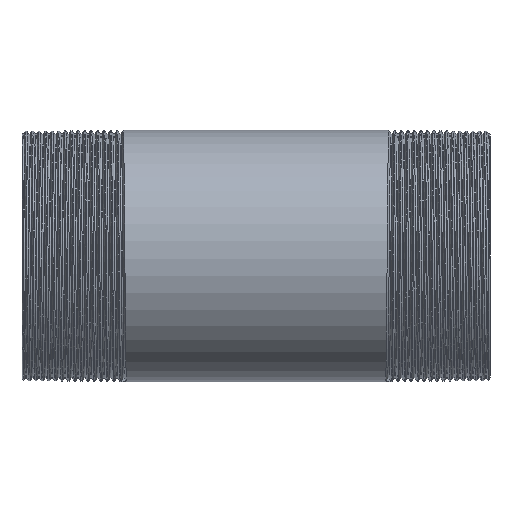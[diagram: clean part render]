
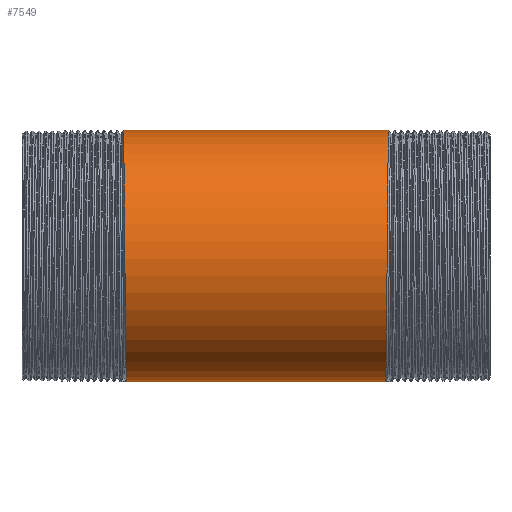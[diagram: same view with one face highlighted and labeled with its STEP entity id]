
A CAD part, front view. The second image highlights one B-rep face of the part: STEP entity #7549.
In plain terms, the highlighted cylindrical face has radius 24.15 mm (diameter 48.3 mm), a partial arc.
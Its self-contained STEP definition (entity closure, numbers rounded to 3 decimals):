
#58 = LINE ( 'NONE', #4644, #7057 ) ;
#69 = EDGE_LOOP ( 'NONE', ( #5628, #7618, #4706, #9141 ) ) ;
#310 = AXIS2_PLACEMENT_3D ( 'NONE', #12914, #11833, #9659 ) ;
#392 = CARTESIAN_POINT ( 'NONE',  ( 24.984, -10.003, -24.15 ) ) ;
#926 = CARTESIAN_POINT ( 'NONE',  ( -25.531, 0., 24.15 ) ) ;
#1247 =( BOUNDED_CURVE ( )  B_SPLINE_CURVE ( 2, ( #5503, #9633, #8539, #8749, #8611, #12955, #14269, #3024, #926 ),
 .UNSPECIFIED., .F., .T. ) 
 B_SPLINE_CURVE_WITH_KNOTS ( ( 3, 2, 2, 2, 3 ),
 ( 0., 0.006, 0.013, 0.019, 0.025 ),
 .UNSPECIFIED. ) 
 CURVE ( )  GEOMETRIC_REPRESENTATION_ITEM ( )  RATIONAL_B_SPLINE_CURVE ( ( 1., 0.924, 1., 0.924, 1., 0.924, 1., 0.924, 1. ) ) 
 REPRESENTATION_ITEM ( '' )  );
#1628 = CARTESIAN_POINT ( 'NONE',  ( 25.453, -10.003, 24.15 ) ) ;
#1927 = VERTEX_POINT ( 'NONE', #8863 ) ;
#2167 = EDGE_CURVE ( 'NONE', #10183, #4944, #9866, .T. ) ;
#2715 = CARTESIAN_POINT ( 'NONE',  ( 25.219, -24.15, 0. ) ) ;
#2999 = EDGE_CURVE ( 'NONE', #10910, #10183, #8568, .T. ) ;
#3024 = CARTESIAN_POINT ( 'NONE',  ( -25.453, -10.003, 24.15 ) ) ;
#3949 = CYLINDRICAL_SURFACE ( 'NONE', #310, 24.15 ) ;
#3997 = CARTESIAN_POINT ( 'NONE',  ( 25.531, 0., 24.15 ) ) ;
#4644 = CARTESIAN_POINT ( 'NONE',  ( -149.494, 0., -24.15 ) ) ;
#4706 = ORIENTED_EDGE ( 'NONE', *, *, #2167, .T. ) ;
#4944 = VERTEX_POINT ( 'NONE', #6280 ) ;
#5503 = CARTESIAN_POINT ( 'NONE',  ( -24.906, 0., -24.15 ) ) ;
#5628 = ORIENTED_EDGE ( 'NONE', *, *, #10466, .F. ) ;
#6207 = CARTESIAN_POINT ( 'NONE',  ( 25.375, -17.077, 17.077 ) ) ;
#6280 = CARTESIAN_POINT ( 'NONE',  ( -25.531, 0., 24.15 ) ) ;
#6606 = CARTESIAN_POINT ( 'NONE',  ( -149.494, 0., 24.15 ) ) ;
#6739 = VECTOR ( 'NONE', #14142, 1000. ) ;
#7057 = VECTOR ( 'NONE', #11308, 1000. ) ;
#7225 = CARTESIAN_POINT ( 'NONE',  ( 25.297, -24.15, 10.003 ) ) ;
#7549 = ADVANCED_FACE ( 'NONE', ( #12784 ), #3949, .T. ) ;
#7618 = ORIENTED_EDGE ( 'NONE', *, *, #2999, .T. ) ;
#8308 = CARTESIAN_POINT ( 'NONE',  ( 25.141, -24.15, -10.003 ) ) ;
#8539 = CARTESIAN_POINT ( 'NONE',  ( -25.063, -17.077, -17.077 ) ) ;
#8568 =( BOUNDED_CURVE ( )  B_SPLINE_CURVE ( 2, ( #9532, #392, #12856, #8308, #2715, #7225, #6207, #1628, #13880 ),
 .UNSPECIFIED., .F., .T. ) 
 B_SPLINE_CURVE_WITH_KNOTS ( ( 3, 2, 2, 2, 3 ),
 ( 0., 0.006, 0.013, 0.019, 0.025 ),
 .UNSPECIFIED. ) 
 CURVE ( )  GEOMETRIC_REPRESENTATION_ITEM ( )  RATIONAL_B_SPLINE_CURVE ( ( 1., 0.924, 1., 0.924, 1., 0.924, 1., 0.924, 1. ) ) 
 REPRESENTATION_ITEM ( '' )  );
#8611 = CARTESIAN_POINT ( 'NONE',  ( -25.219, -24.15, 0. ) ) ;
#8749 = CARTESIAN_POINT ( 'NONE',  ( -25.141, -24.15, -10.003 ) ) ;
#8863 = CARTESIAN_POINT ( 'NONE',  ( -24.906, 0., -24.15 ) ) ;
#9141 = ORIENTED_EDGE ( 'NONE', *, *, #10515, .F. ) ;
#9532 = CARTESIAN_POINT ( 'NONE',  ( 24.906, 0., -24.15 ) ) ;
#9633 = CARTESIAN_POINT ( 'NONE',  ( -24.984, -10.003, -24.15 ) ) ;
#9659 = DIRECTION ( 'NONE',  ( 0., 0., 1. ) ) ;
#9866 = LINE ( 'NONE', #6606, #6739 ) ;
#10183 = VERTEX_POINT ( 'NONE', #3997 ) ;
#10466 = EDGE_CURVE ( 'NONE', #10910, #1927, #58, .T. ) ;
#10515 = EDGE_CURVE ( 'NONE', #1927, #4944, #1247, .T. ) ;
#10910 = VERTEX_POINT ( 'NONE', #12370 ) ;
#11308 = DIRECTION ( 'NONE',  ( -1., 0., 0. ) ) ;
#11833 = DIRECTION ( 'NONE',  ( -1., 0., 0. ) ) ;
#12370 = CARTESIAN_POINT ( 'NONE',  ( 24.906, 0., -24.15 ) ) ;
#12784 = FACE_OUTER_BOUND ( 'NONE', #69, .T. ) ;
#12856 = CARTESIAN_POINT ( 'NONE',  ( 25.063, -17.077, -17.077 ) ) ;
#12914 = CARTESIAN_POINT ( 'NONE',  ( -149.494, 0., 0. ) ) ;
#12955 = CARTESIAN_POINT ( 'NONE',  ( -25.297, -24.15, 10.003 ) ) ;
#13880 = CARTESIAN_POINT ( 'NONE',  ( 25.531, 0., 24.15 ) ) ;
#14142 = DIRECTION ( 'NONE',  ( -1., 0., 0. ) ) ;
#14269 = CARTESIAN_POINT ( 'NONE',  ( -25.375, -17.077, 17.077 ) ) ;
